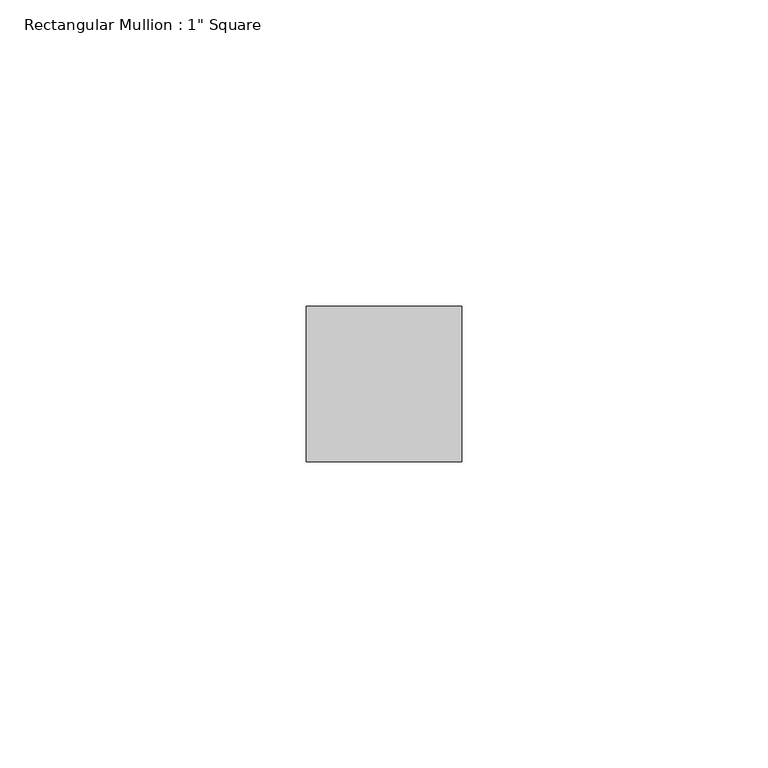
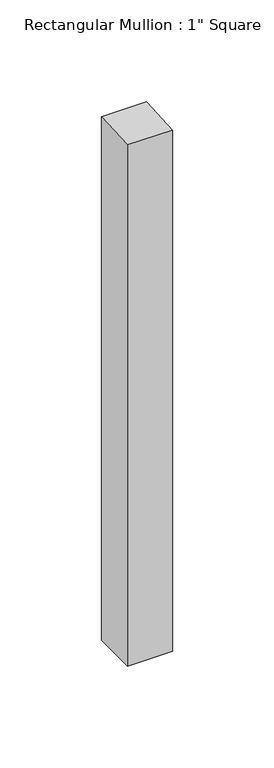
"""IFC4 building model written with IfcOpenShell, lengths in millimetres: member geometry."""

from ifc_helpers import new_model, si_unit, frame, origin, place, context, project, spatial, polyline, outline, extrude, source, transform, mapped, element, save


def member_dc070f92(model_context):
    return source(origin(), model_context, "Body", "SweptSolid", [
        extrude(outline(polyline([(-12.7, -0.7481296), (12.7, 0.7481296), (12.7, -313.1171736), (-12.7, -313.1171736), (-12.7, -0.7481296)])), frame((-12.7, 0.0, 0.0), z_axis=(1.0, 0.0, 0.0), x_axis=(0.0, 1.0, 0.0)), (0.0, 0.0, 1.0), 25.4),
    ])


if __name__ == "__main__":
    model = new_model("IFC4")
    model_context = context("Model", 3, world=origin())
    ifc_project = project(units=[si_unit("LENGTHUNIT", "METRE", prefix="MILLI")], contexts=[model_context])
    site = spatial("IfcSite", under=ifc_project)
    building = spatial("IfcBuilding", under=site)
    placement = place(None, origin())
    member_shape = member_dc070f92(model_context)
    element("IfcMember", 1, ObjectType="Rectangular Mullion : 1\" Square", at=placement, inside=building, context=model_context, shape_type="MappedRepresentation", body=[
        mapped(member_shape, transform((0.0, 0.0, 0.0), x_axis=(1.0, 0.0, 0.0), y_axis=(0.0, 1.0, 0.0), z_axis=(0.0, 0.0, 1.0))),
    ])
    save(model, "model.ifc")
